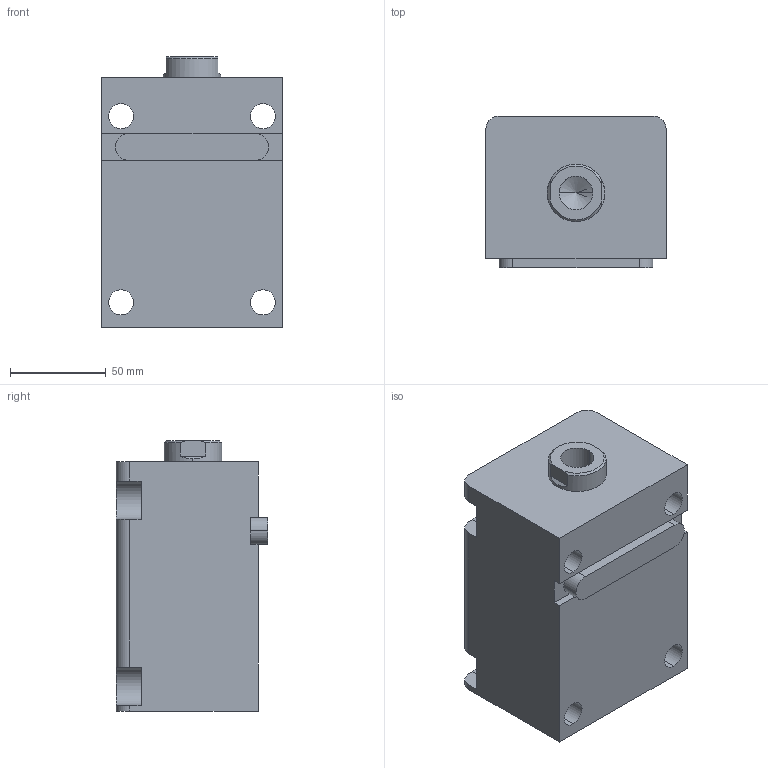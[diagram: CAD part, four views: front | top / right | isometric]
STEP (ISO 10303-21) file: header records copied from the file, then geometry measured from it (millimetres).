
FILE_DESCRIPTION (( 'STEP AP203' ), '1' );
FILE_NAME ('HTB-LA50-70N.STEP', '2019-10-09T07:11:59', ( '微软用户' ), ( '微软中国' ), 'SwSTEP 2.0', 'SolidWorks 2012', '' );
FILE_SCHEMA (( 'CONFIG_CONTROL_DESIGN' ));
Length unit declared in the file: millimetre
Products named in the file (4): HTB-LA50-70掛极; HTB-LA50-70N活塞杆; HTB-LA50-瑩; HTB-LA50-70N
Assembly tree (3 placements, depth 2):
  HTB-LA50-70N
    HTB-LA50-70掛极
    HTB-LA50-70N活塞杆
    HTB-LA50-瑩
Bounding box: 94 x 79 x 141 mm (x, y, z)
Volume: 766373.1 mm3; surface area: 110990.8 mm2
Topology: 3 solids, 3 shells, 86 faces, 213 edges, 139 vertices
Faces by surface type: plane 39, cylinder 35, cone 8, torus 4
Entity records: 3001 total; most frequent: DIRECTION 475, CARTESIAN_POINT 470, ORIENTED_EDGE 422, EDGE_CURVE 211, AXIS2_PLACEMENT_3D 180, VERTEX_POINT 139, VECTOR 115, LINE 115
